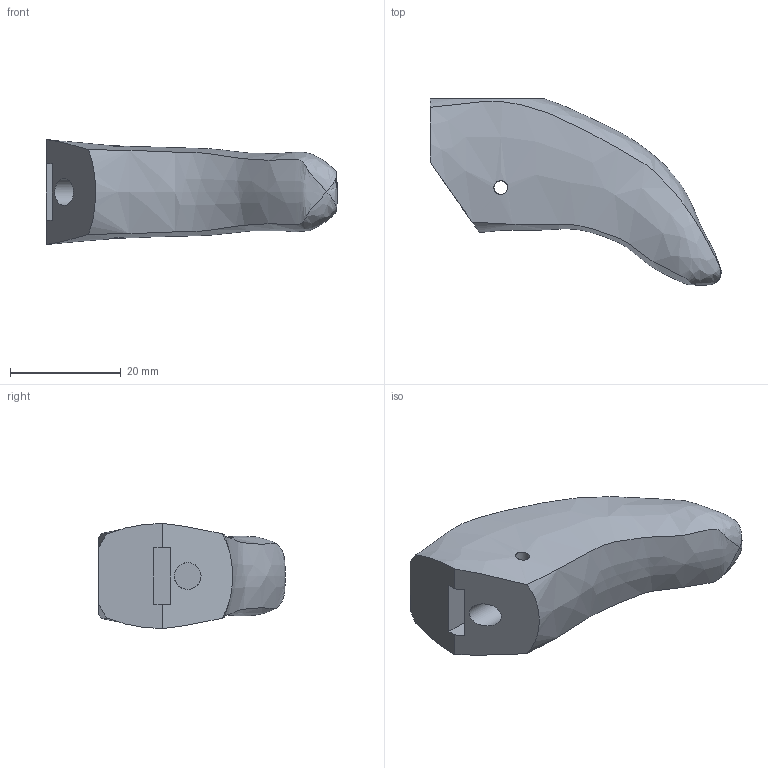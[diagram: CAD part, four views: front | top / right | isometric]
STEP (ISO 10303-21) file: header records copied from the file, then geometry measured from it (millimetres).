
FILE_DESCRIPTION(/* description */ (''),/* implementation_level */ '2;1');
FILE_NAME(/* name */ 'C:/Users/Ryan/Documents/AIO Robotics/CAD Files/ThumbTip.step',/* time_stamp */ '2017-02-04T20:54:31-08:00',/* author */ (''),/* organization */ (''),/* preprocessor_version */ 'ST-DEVELOPER v16.5',/* originating_system */ 'Autodesk Translation Framework v5.2.0.2920',/* authorisation */ '');
FILE_SCHEMA (('AUTOMOTIVE_DESIGN { 1 0 10303 214 3 1 1 }'));
Length unit declared in the file: inch
Products named in the file (1): FingerTipGeneral v53
Bounding box: 52.53 x 33.58 x 18.95 mm (x, y, z)
Volume: 14167.6 mm3; surface area: 4258.8 mm2
Topology: 1 solids, 1 shells, 16 faces, 45 edges, 28 vertices
Faces by surface type: plane 9, bspline 4, cylinder 3
Full cylindrical faces by diameter (mm): 2.474 x2, 4.826 x1
Entity records: 1160 total; most frequent: CARTESIAN_POINT 796, ORIENTED_EDGE 70, DIRECTION 55, EDGE_CURVE 35, VERTEX_POINT 25, EDGE_LOOP 24, AXIS2_PLACEMENT_3D 19, LINE 17
